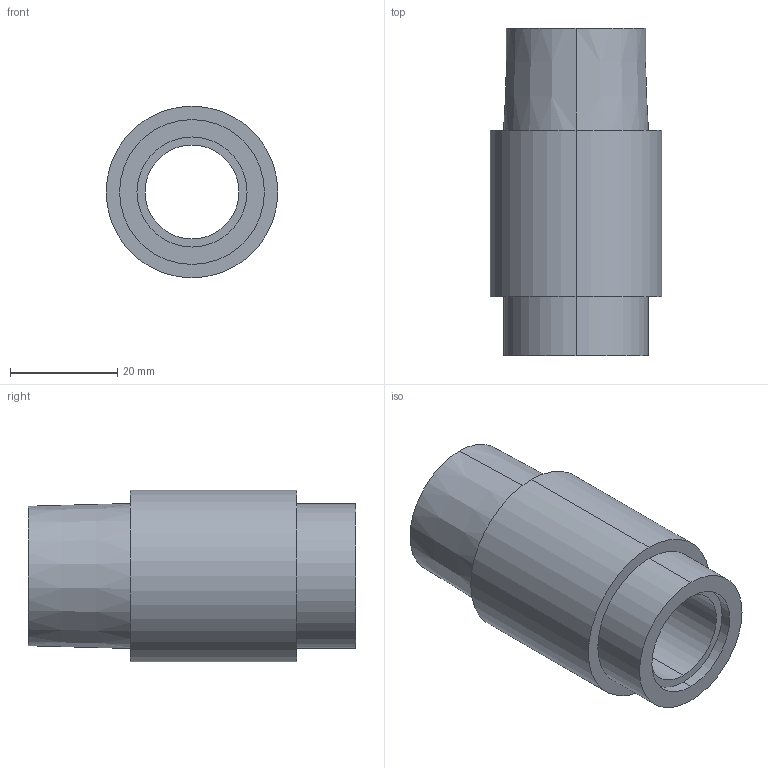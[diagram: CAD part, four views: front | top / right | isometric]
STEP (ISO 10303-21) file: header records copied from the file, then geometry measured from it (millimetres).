
FILE_DESCRIPTION (( 'STEP AP203' ), '1' );
FILE_NAME ('5à.1.STEP', '2025-02-10T09:12:53', ( '' ), ( '' ), 'SwSTEP 2.0', 'SolidWorks 2021', '' );
FILE_SCHEMA (( 'CONFIG_CONTROL_DESIGN' ));
Length unit declared in the file: millimetre
Products named in the file (1): 5à.1
Bounding box: 32 x 61 x 32 mm (x, y, z)
Volume: 25924.3 mm3; surface area: 9989.6 mm2
Topology: 1 solids, 1 shells, 17 faces, 34 edges, 22 vertices
Faces by surface type: cylinder 8, plane 5, cone 4
Entity records: 535 total; most frequent: DIRECTION 92, CARTESIAN_POINT 74, ORIENTED_EDGE 68, AXIS2_PLACEMENT_3D 40, EDGE_CURVE 34, CIRCLE 22, VERTEX_POINT 22, EDGE_LOOP 22
